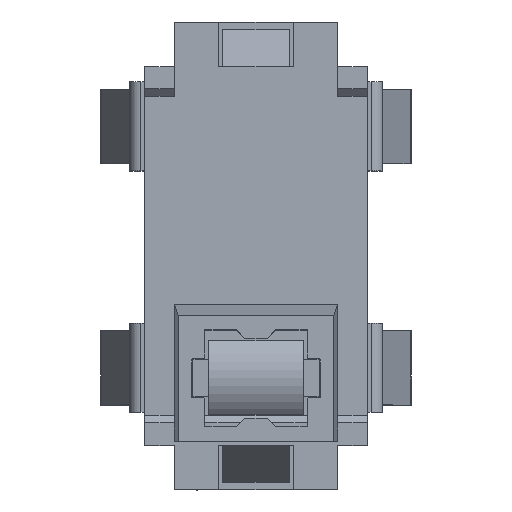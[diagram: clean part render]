
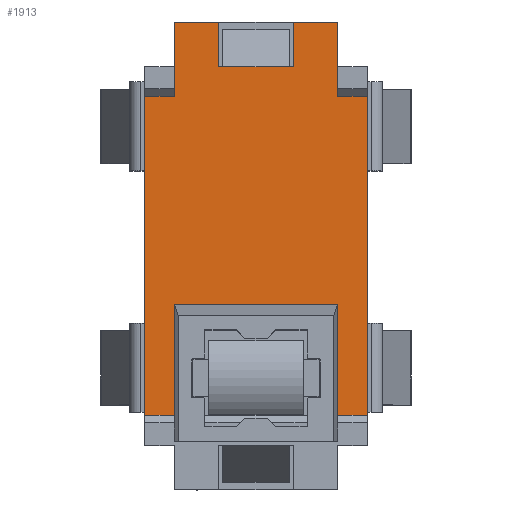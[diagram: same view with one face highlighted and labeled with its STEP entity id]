
A CAD part, top view. The second image highlights one B-rep face of the part: STEP entity #1913.
In plain terms, the highlighted planar face has unit normal (0, 0, 1).
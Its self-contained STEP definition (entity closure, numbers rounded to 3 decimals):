
#74 = VERTEX_POINT ( 'NONE', #3300 ) ;
#884 = VERTEX_POINT ( 'NONE', #5543 ) ;
#886 = EDGE_CURVE ( 'NONE', #884, #2658, #5541, .T. ) ;
#900 = EDGE_CURVE ( 'NONE', #2590, #901, #5558, .T. ) ;
#901 = VERTEX_POINT ( 'NONE', #5554 ) ;
#1326 = EDGE_CURVE ( 'NONE', #1327, #901, #6696, .T. ) ;
#1327 = VERTEX_POINT ( 'NONE', #6692 ) ;
#1349 = EDGE_CURVE ( 'NONE', #884, #1374, #6735, .T. ) ;
#1374 = VERTEX_POINT ( 'NONE', #6828 ) ;
#1586 = VERTEX_POINT ( 'NONE', #7493 ) ;
#1588 = EDGE_CURVE ( 'NONE', #1374, #1586, #7492, .T. ) ;
#1604 = VERTEX_POINT ( 'NONE', #7515 ) ;
#1645 = VERTEX_POINT ( 'NONE', #7585 ) ;
#1647 = EDGE_CURVE ( 'NONE', #1586, #1645, #7637, .T. ) ;
#1677 = EDGE_CURVE ( 'NONE', #1692, #1604, #7690, .T. ) ;
#1684 = VERTEX_POINT ( 'NONE', #7718 ) ;
#1686 = EDGE_CURVE ( 'NONE', #74, #1684, #7716, .T. ) ;
#1691 = EDGE_CURVE ( 'NONE', #1684, #1692, #7749, .T. ) ;
#1692 = VERTEX_POINT ( 'NONE', #7745 ) ;
#1700 = EDGE_CURVE ( 'NONE', #1645, #74, #7775, .T. ) ;
#1913 = ADVANCED_FACE ( 'NONE', ( #8302 ), #8345, .T. ) ;
#1914 = EDGE_LOOP ( 'NONE', ( #1915, #1918, #1920, #1921, #1922, #1923, #1987, #1988, #1989, #1990, #1991, #1992, #1993, #1994, #1995, #1996 ) ) ;
#1915 = ORIENTED_EDGE ( 'NONE', *, *, #1916, .T. ) ;
#1916 = EDGE_CURVE ( 'NONE', #1932, #1917, #8340, .T. ) ;
#1917 = VERTEX_POINT ( 'NONE', #8336 ) ;
#1918 = ORIENTED_EDGE ( 'NONE', *, *, #1919, .T. ) ;
#1919 = EDGE_CURVE ( 'NONE', #1917, #1327, #8335, .T. ) ;
#1920 = ORIENTED_EDGE ( 'NONE', *, *, #1326, .T. ) ;
#1921 = ORIENTED_EDGE ( 'NONE', *, *, #900, .F. ) ;
#1922 = ORIENTED_EDGE ( 'NONE', *, *, #2589, .T. ) ;
#1923 = ORIENTED_EDGE ( 'NONE', *, *, #2051, .T. ) ;
#1932 = VERTEX_POINT ( 'NONE', #8351 ) ;
#1934 = EDGE_CURVE ( 'NONE', #1604, #1932, #8406, .T. ) ;
#1987 = ORIENTED_EDGE ( 'NONE', *, *, #2660, .T. ) ;
#1988 = ORIENTED_EDGE ( 'NONE', *, *, #886, .F. ) ;
#1989 = ORIENTED_EDGE ( 'NONE', *, *, #1349, .T. ) ;
#1990 = ORIENTED_EDGE ( 'NONE', *, *, #1588, .T. ) ;
#1991 = ORIENTED_EDGE ( 'NONE', *, *, #1647, .T. ) ;
#1992 = ORIENTED_EDGE ( 'NONE', *, *, #1700, .T. ) ;
#1993 = ORIENTED_EDGE ( 'NONE', *, *, #1686, .T. ) ;
#1994 = ORIENTED_EDGE ( 'NONE', *, *, #1691, .T. ) ;
#1995 = ORIENTED_EDGE ( 'NONE', *, *, #1677, .T. ) ;
#1996 = ORIENTED_EDGE ( 'NONE', *, *, #1934, .T. ) ;
#2042 = VERTEX_POINT ( 'NONE', #8331 ) ;
#2049 = VERTEX_POINT ( 'NONE', #8598 ) ;
#2051 = EDGE_CURVE ( 'NONE', #2042, #2049, #8596, .T. ) ;
#2589 = EDGE_CURVE ( 'NONE', #2590, #2042, #10052, .T. ) ;
#2590 = VERTEX_POINT ( 'NONE', #10048 ) ;
#2658 = VERTEX_POINT ( 'NONE', #10262 ) ;
#2660 = EDGE_CURVE ( 'NONE', #2049, #2658, #10260, .T. ) ;
#3300 = CARTESIAN_POINT ( 'NONE',  ( -1.1, -2.232, 4.9 ) ) ;
#5538 = DIRECTION ( 'NONE',  ( 1., 0., 0. ) ) ;
#5539 = VECTOR ( 'NONE', #5538, 1000. ) ;
#5540 = CARTESIAN_POINT ( 'NONE',  ( 1.1, 3.068, 4.9 ) ) ;
#5541 = LINE ( 'NONE', #5540, #5539 ) ;
#5543 = CARTESIAN_POINT ( 'NONE',  ( -1.1, 3.068, 4.9 ) ) ;
#5554 = CARTESIAN_POINT ( 'NONE',  ( 1.1, 3.068, 4.9 ) ) ;
#5555 = DIRECTION ( 'NONE',  ( 1., 0., 0. ) ) ;
#5556 = VECTOR ( 'NONE', #5555, 1000. ) ;
#5557 = CARTESIAN_POINT ( 'NONE',  ( 1.1, 3.068, 4.9 ) ) ;
#5558 = LINE ( 'NONE', #5557, #5556 ) ;
#6692 = CARTESIAN_POINT ( 'NONE',  ( 1.1, 2.068, 4.9 ) ) ;
#6693 = DIRECTION ( 'NONE',  ( 0., 1., 0. ) ) ;
#6694 = VECTOR ( 'NONE', #6693, 1000. ) ;
#6695 = CARTESIAN_POINT ( 'NONE',  ( 1.1, 3.068, 4.9 ) ) ;
#6696 = LINE ( 'NONE', #6695, #6694 ) ;
#6732 = DIRECTION ( 'NONE',  ( 0., -1., 0. ) ) ;
#6733 = VECTOR ( 'NONE', #6732, 1000. ) ;
#6734 = CARTESIAN_POINT ( 'NONE',  ( -1.1, 2.068, 4.9 ) ) ;
#6735 = LINE ( 'NONE', #6734, #6733 ) ;
#6828 = CARTESIAN_POINT ( 'NONE',  ( -1.1, 2.068, 4.9 ) ) ;
#7489 = DIRECTION ( 'NONE',  ( -1., 0., 0. ) ) ;
#7490 = VECTOR ( 'NONE', #7489, 1000. ) ;
#7491 = CARTESIAN_POINT ( 'NONE',  ( 1.5, 2.068, 4.9 ) ) ;
#7492 = LINE ( 'NONE', #7491, #7490 ) ;
#7493 = CARTESIAN_POINT ( 'NONE',  ( -1.5, 2.068, 4.9 ) ) ;
#7515 = CARTESIAN_POINT ( 'NONE',  ( 1.1, -2.232, 4.9 ) ) ;
#7585 = CARTESIAN_POINT ( 'NONE',  ( -1.5, -2.232, 4.9 ) ) ;
#7634 = DIRECTION ( 'NONE',  ( 0., -1., 0. ) ) ;
#7635 = VECTOR ( 'NONE', #7634, 1000. ) ;
#7636 = CARTESIAN_POINT ( 'NONE',  ( -1.5, 3.068, 4.9 ) ) ;
#7637 = LINE ( 'NONE', #7636, #7635 ) ;
#7687 = DIRECTION ( 'NONE',  ( 0., -1., 0. ) ) ;
#7688 = VECTOR ( 'NONE', #7687, 1000. ) ;
#7689 = CARTESIAN_POINT ( 'NONE',  ( 1.1, 3.068, 4.9 ) ) ;
#7690 = LINE ( 'NONE', #7689, #7688 ) ;
#7713 = DIRECTION ( 'NONE',  ( 0., 1., 0. ) ) ;
#7714 = VECTOR ( 'NONE', #7713, 1000. ) ;
#7715 = CARTESIAN_POINT ( 'NONE',  ( -1.1, 3.068, 4.9 ) ) ;
#7716 = LINE ( 'NONE', #7715, #7714 ) ;
#7718 = CARTESIAN_POINT ( 'NONE',  ( -1.1, -0.732, 4.9 ) ) ;
#7745 = CARTESIAN_POINT ( 'NONE',  ( 1.1, -0.732, 4.9 ) ) ;
#7746 = DIRECTION ( 'NONE',  ( 1., 0., 0. ) ) ;
#7747 = VECTOR ( 'NONE', #7746, 1000. ) ;
#7748 = CARTESIAN_POINT ( 'NONE',  ( 1.5, -0.732, 4.9 ) ) ;
#7749 = LINE ( 'NONE', #7748, #7747 ) ;
#7772 = DIRECTION ( 'NONE',  ( 1., 0., 0. ) ) ;
#7773 = VECTOR ( 'NONE', #7772, 1000. ) ;
#7774 = CARTESIAN_POINT ( 'NONE',  ( 1.5, -2.232, 4.9 ) ) ;
#7775 = LINE ( 'NONE', #7774, #7773 ) ;
#8302 = FACE_OUTER_BOUND ( 'NONE', #1914, .T. ) ;
#8331 = CARTESIAN_POINT ( 'NONE',  ( 0.5, 2.468, 4.9 ) ) ;
#8332 = DIRECTION ( 'NONE',  ( -1., 0., 0. ) ) ;
#8333 = VECTOR ( 'NONE', #8332, 1000. ) ;
#8334 = CARTESIAN_POINT ( 'NONE',  ( 1.1, 2.068, 4.9 ) ) ;
#8335 = LINE ( 'NONE', #8334, #8333 ) ;
#8336 = CARTESIAN_POINT ( 'NONE',  ( 1.5, 2.068, 4.9 ) ) ;
#8337 = DIRECTION ( 'NONE',  ( 0., 1., 0. ) ) ;
#8338 = VECTOR ( 'NONE', #8337, 1000. ) ;
#8339 = CARTESIAN_POINT ( 'NONE',  ( 1.5, 2.468, 4.9 ) ) ;
#8340 = LINE ( 'NONE', #8339, #8338 ) ;
#8341 = DIRECTION ( 'NONE',  ( 1., 0., 0. ) ) ;
#8342 = DIRECTION ( 'NONE',  ( 0., 0., 1. ) ) ;
#8343 = CARTESIAN_POINT ( 'NONE',  ( 1.5, 3.068, 4.9 ) ) ;
#8344 = AXIS2_PLACEMENT_3D ( 'NONE', #8343, #8342, #8341 ) ;
#8345 = PLANE ( 'NONE',  #8344 ) ;
#8351 = CARTESIAN_POINT ( 'NONE',  ( 1.5, -2.232, 4.9 ) ) ;
#8403 = DIRECTION ( 'NONE',  ( 1., 0., 0. ) ) ;
#8404 = VECTOR ( 'NONE', #8403, 1000. ) ;
#8405 = CARTESIAN_POINT ( 'NONE',  ( 1.5, -2.232, 4.9 ) ) ;
#8406 = LINE ( 'NONE', #8405, #8404 ) ;
#8593 = DIRECTION ( 'NONE',  ( -1., 0., 0. ) ) ;
#8594 = VECTOR ( 'NONE', #8593, 1000. ) ;
#8595 = CARTESIAN_POINT ( 'NONE',  ( 0.5, 2.468, 4.9 ) ) ;
#8596 = LINE ( 'NONE', #8595, #8594 ) ;
#8598 = CARTESIAN_POINT ( 'NONE',  ( -0.5, 2.468, 4.9 ) ) ;
#10048 = CARTESIAN_POINT ( 'NONE',  ( 0.5, 3.068, 4.9 ) ) ;
#10049 = DIRECTION ( 'NONE',  ( 0., -1., 0. ) ) ;
#10050 = VECTOR ( 'NONE', #10049, 1000. ) ;
#10051 = CARTESIAN_POINT ( 'NONE',  ( 0.5, 3.068, 4.9 ) ) ;
#10052 = LINE ( 'NONE', #10051, #10050 ) ;
#10257 = DIRECTION ( 'NONE',  ( 0., 1., 0. ) ) ;
#10258 = VECTOR ( 'NONE', #10257, 1000. ) ;
#10259 = CARTESIAN_POINT ( 'NONE',  ( -0.5, 3.068, 4.9 ) ) ;
#10260 = LINE ( 'NONE', #10259, #10258 ) ;
#10262 = CARTESIAN_POINT ( 'NONE',  ( -0.5, 3.068, 4.9 ) ) ;
